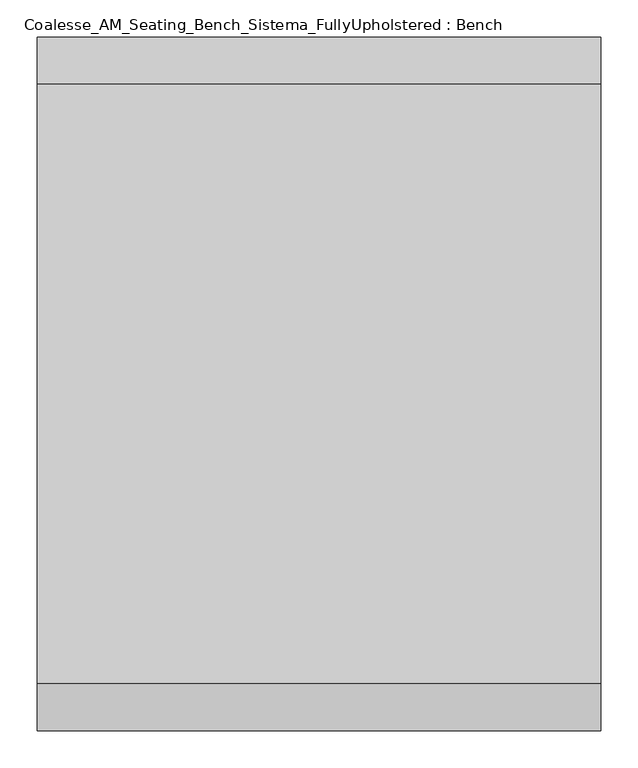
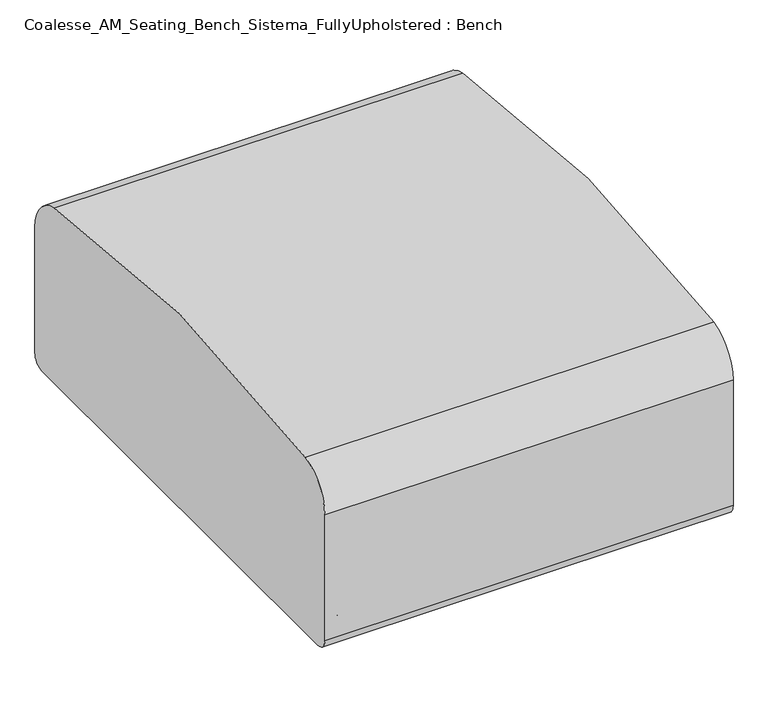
"""IFC4 building model written with IfcOpenShell, lengths in millimetres: furniture geometry, Coalesse_AM_Seating_Bench_Sistema_FullyUpholstered : Bench."""

import ifcopenshell
import ifcopenshell.guid

model = None  # the IFC model being written
_history = None  # IfcOwnerHistory: only IFC2X3 demands one
_inside = {}  # id of a spatial element -> (the spatial element, [elements in it])
_under = {}  # id of a project, library or spatial element -> (it, [spatial elements below it])
_declared = {}  # id of a project -> (the project, [libraries it declares])
_typed = {}  # id of a type object -> (the type object, [elements of that type])
_made_of = {}  # id of a material, layer set ... -> (it, [elements and type objects made of it])


def new_model(schema):
    """Start an empty IFC model of exactly this schema.

    Asked for "IFC4X3", IfcOpenShell would pick the latest addendum, in which some entities
    have other attributes; the version numbers below select the first issue.
    IFC2X3 requires an IfcOwnerHistory on every rooted entity: one is made here for all.
    """
    global model, _history
    if schema == "IFC4X3":
        model = ifcopenshell.file(schema_version=(4, 3, 0, 0))
    else:
        model = ifcopenshell.file(schema=schema)
    _inside.clear()
    _under.clear()
    _declared.clear()
    _typed.clear()
    _made_of.clear()
    _history = None
    if model.schema == "IFC2X3":
        org = make("IfcOrganization", Name="unknown")
        user = make(
            "IfcPersonAndOrganization",
            ThePerson=make("IfcPerson", FamilyName="unknown"),
            TheOrganization=org,
        )
        app = make(
            "IfcApplication",
            ApplicationDeveloper=org,
            Version="unknown",
            ApplicationFullName="unknown",
            ApplicationIdentifier="unknown",
        )
        _history = make(
            "IfcOwnerHistory",
            OwningUser=user,
            OwningApplication=app,
            ChangeAction="ADDED",
            CreationDate=0,
        )
    return model


def make(cls, **values):
    """One entity of the class cls with the attributes given. An attribute that is None is left unset."""
    return model.create_entity(
        cls, **{name: value for name, value in values.items() if value is not None}
    )


def rooted(cls, **values):
    """An entity with a GlobalId (a new one), such as an element, a storey or a relation."""
    return make(cls, GlobalId=ifcopenshell.guid.new(), OwnerHistory=_history, **values)


def si_unit(unit_type, name, prefix=None):
    """IfcSIUnit, for example si_unit("LENGTHUNIT", "METRE", prefix="MILLI")."""
    return make("IfcSIUnit", UnitType=unit_type, Prefix=prefix, Name=name)


def assignment(units):
    """IfcUnitAssignment: the units of a project."""
    return None if units is None else make("IfcUnitAssignment", Units=units)


def point(xyz):
    """IfcCartesianPoint."""
    return None if xyz is None else make("IfcCartesianPoint", Coordinates=xyz)


def direction(xyz):
    """IfcDirection."""
    return None if xyz is None else make("IfcDirection", DirectionRatios=xyz)


def frame(location, z_axis=None, x_axis=None):
    """IfcAxis2Placement3D, a coordinate frame: its origin and axes. An axis left out is left unset."""
    return make(
        "IfcAxis2Placement3D",
        Location=point(location),
        Axis=direction(z_axis),
        RefDirection=direction(x_axis),
    )


def frame_2d(location, x_axis=None):
    """IfcAxis2Placement2D, a coordinate frame in the plane: its origin and x axis."""
    return make(
        "IfcAxis2Placement2D", Location=point(location), RefDirection=direction(x_axis)
    )


def origin():
    """The frame at (0, 0, 0) with its axes left unset."""
    return frame((0.0, 0.0, 0.0))


def place(relative_to, where):
    """IfcLocalPlacement: puts the frame where relative to a parent placement (None: the world)."""
    return make(
        "IfcLocalPlacement", PlacementRelTo=relative_to, RelativePlacement=where
    )


def context(
    kind, dimensions, precision=None, world=None, true_north=None, identifier=None
):
    """IfcGeometricRepresentationContext, for example the 3D "Model" context."""
    return make(
        "IfcGeometricRepresentationContext",
        ContextIdentifier=identifier,
        ContextType=kind,
        CoordinateSpaceDimension=dimensions,
        Precision=precision,
        WorldCoordinateSystem=world,
        TrueNorth=true_north,
    )


def project(units=None, contexts=None):
    """IfcProject with its units and contexts."""
    return rooted(
        "IfcProject",
        Name="project",
        RepresentationContexts=contexts,
        UnitsInContext=assignment(units),
    )


def spatial(cls, under=None, at=None, **own):
    """A site, building, storey or space (cls), placed at a placement, below another one or the project."""
    s = rooted(cls, ObjectPlacement=at, **own)
    if under is not None:
        _under.setdefault(under.id(), (under, []))[1].append(s)
    return s


def polyline(points):
    """IfcPolyline through the points."""
    return make("IfcPolyline", Points=[point(p) for p in points])


def circle_curve(where, radius):
    """IfcCircle in the frame where."""
    return make("IfcCircle", Position=where, Radius=radius)


def ellipse_curve(where, semi_axis1, semi_axis2):
    """IfcEllipse in the frame where."""
    return make(
        "IfcEllipse", Position=where, SemiAxis1=semi_axis1, SemiAxis2=semi_axis2
    )


def trimmed(basis, trim1, trim2, sense, master):
    """IfcTrimmedCurve: the piece of a basis curve between two trims."""
    return make(
        "IfcTrimmedCurve",
        BasisCurve=basis,
        Trim1=trim1,
        Trim2=trim2,
        SenseAgreement=sense,
        MasterRepresentation=master,
    )


def segment(curve, same_sense, transition):
    """IfcCompositeCurveSegment."""
    return make(
        "IfcCompositeCurveSegment",
        Transition=transition,
        SameSense=same_sense,
        ParentCurve=curve,
    )


def composite_curve(segments, self_intersect=None):
    """IfcCompositeCurve: segments joined end to end."""
    return make("IfcCompositeCurve", Segments=segments, SelfIntersect=self_intersect)


def outline(outer, holes=None, kind="AREA"):
    """IfcArbitraryClosedProfileDef: a profile drawn as a closed curve; with holes, ...WithVoids."""
    if holes is None:
        return make("IfcArbitraryClosedProfileDef", ProfileType=kind, OuterCurve=outer)
    return make(
        "IfcArbitraryProfileDefWithVoids",
        ProfileType=kind,
        OuterCurve=outer,
        InnerCurves=holes,
    )


def extrude(swept, where, along, depth):
    """IfcExtrudedAreaSolid: the profile swept, set in the frame where, extruded along a direction by depth."""
    return make(
        "IfcExtrudedAreaSolid",
        SweptArea=swept,
        Position=where,
        ExtrudedDirection=direction(along),
        Depth=depth,
    )


def shape(context_of_items, identifier, shape_type, items):
    """IfcShapeRepresentation: the items that make up one representation, for example the "Body"."""
    return make(
        "IfcShapeRepresentation",
        ContextOfItems=context_of_items,
        RepresentationIdentifier=identifier,
        RepresentationType=shape_type,
        Items=items,
    )


def source(mapping_origin, context_of_items, identifier, shape_type, items):
    """IfcRepresentationMap: a shape defined once, which mapped items show again and again."""
    return make(
        "IfcRepresentationMap",
        MappingOrigin=mapping_origin,
        MappedRepresentation=shape(context_of_items, identifier, shape_type, items),
    )


def transform(
    local_origin,
    x_axis=None,
    y_axis=None,
    z_axis=None,
    scale=None,
    scale2=None,
    scale3=None,
    uniform=True,
):
    """IfcCartesianTransformationOperator3D, or its non-uniform kind. x_axis, y_axis, z_axis: its Axis1, 2, 3."""
    if uniform:
        return make(
            "IfcCartesianTransformationOperator3D",
            Axis1=direction(x_axis),
            Axis2=direction(y_axis),
            LocalOrigin=point(local_origin),
            Scale=scale,
            Axis3=direction(z_axis),
        )
    return make(
        "IfcCartesianTransformationOperator3DnonUniform",
        Axis1=direction(x_axis),
        Axis2=direction(y_axis),
        LocalOrigin=point(local_origin),
        Scale=scale,
        Axis3=direction(z_axis),
        Scale2=scale2,
        Scale3=scale3,
    )


def mapped(mapping_source, mapping_target):
    """IfcMappedItem: shows the shape of a source again, moved by a transform."""
    return make(
        "IfcMappedItem", MappingSource=mapping_source, MappingTarget=mapping_target
    )


def made_of(thing, what):
    """Note that an element or type object is made of a material, layer set ...; save() writes the relation."""
    if what is not None:
        _made_of.setdefault(what.id(), (what, []))[1].append(thing)
    return thing


def element(
    cls,
    number,
    at=None,
    inside=None,
    cuts=None,
    type_object=None,
    material=None,
    context=None,
    identifier="Body",
    shape_type=None,
    held_by="IfcProductDefinitionShape",
    body=None,
    shapes=None,
    **own,
):
    """One element of the class cls, such as IfcWall. Its Tag is "e" and its number.

    at: its placement. inside: the storey or other place that contains it. cuts: it is an
    opening in that element (IfcRelVoidsElement). A single representation is given by context,
    identifier, shape_type and body (its items); several are given by shapes. held_by: the class
    of the entity that holds the representations. save() writes the other relations.
    """
    e = rooted(cls, Tag="e%d" % number, ObjectPlacement=at, **own)
    if body is not None:
        shapes = [shape(context, identifier, shape_type, body)]
    if shapes is not None:
        e.Representation = make(held_by, Representations=shapes)
    if inside is not None:
        _inside.setdefault(inside.id(), (inside, []))[1].append(e)
    if cuts is not None:
        rooted(
            "IfcRelVoidsElement", RelatingBuildingElement=cuts, RelatedOpeningElement=e
        )
    if type_object is not None:
        _typed.setdefault(type_object.id(), (type_object, []))[1].append(e)
    return made_of(e, material)


def aggregate(whole, parts):
    """IfcRelAggregates: a whole, such as a stair, and the parts it consists of."""
    return rooted("IfcRelAggregates", RelatingObject=whole, RelatedObjects=parts)


def save(model, path):
    """Write the relations noted so far, then the file.

    IfcRelAggregates (storeys below a building ...), IfcRelContainedInSpatialStructure (elements
    in a storey), IfcRelDefinesByType, IfcRelAssociatesMaterial and IfcRelDeclares: one each for
    every whole, place, type object, material and project.
    """
    for whole, parts in _under.values():
        aggregate(whole, parts)
    for where, things in _inside.values():
        rooted(
            "IfcRelContainedInSpatialStructure",
            RelatedElements=things,
            RelatingStructure=where,
        )
    for kind, things in _typed.values():
        rooted("IfcRelDefinesByType", RelatedObjects=things, RelatingType=kind)
    for what, things in _made_of.values():
        rooted("IfcRelAssociatesMaterial", RelatedObjects=things, RelatingMaterial=what)
    for by, libraries in _declared.values():
        rooted("IfcRelDeclares", RelatingContext=by, RelatedDefinitions=libraries)
    model.write(path)


def plane_surface(at):
    """IfcPlane: the flat surface through the origin of the frame at, square to its z axis."""
    return make("IfcPlane", Position=at)


def cylinder_surface(at, radius):
    """IfcCylindricalSurface: all points at the distance radius from the z axis of the frame at."""
    return make("IfcCylindricalSurface", Position=at, Radius=radius)


def revolved_surface(curve, axis_point, axis_direction):
    """IfcSurfaceOfRevolution: the curve turned about the line through axis_point along axis_direction."""
    return make(
        "IfcSurfaceOfRevolution",
        SweptCurve=make("IfcArbitraryOpenProfileDef", ProfileType="CURVE", Curve=curve),
        AxisPosition=make("IfcAxis1Placement", Location=point(axis_point), Axis=direction(axis_direction)),
    )


def advanced_brep(points, edges, surfaces, faces):
    """IfcAdvancedBrep: a solid bounded by faces that lie on surfaces and meet in shared edges.

    An edge is (start, end): straight between two places in points (the first is 0);
    or (start, end, curve); or (start, end, curve, False) where it runs against its curve.
    A face is (place in surfaces, loops), or (place, loops, False) where it looks against
    its surface's normal. A loop lists edges by number (the first is 1), with a minus sign
    where the edge is run from its end to its start. The first loop is the outer one.
    """
    corners = [point(p) for p in points]
    vertices = [make("IfcVertexPoint", VertexGeometry=c) for c in corners]
    made = []
    for start, end, *more in edges:
        made.append(
            make(
                "IfcEdgeCurve",
                EdgeStart=vertices[start],
                EdgeEnd=vertices[end],
                EdgeGeometry=more[0] if more else make("IfcPolyline", Points=[corners[start], corners[end]]),
                SameSense=more[1] if len(more) > 1 else True,
            )
        )
    hull = []
    for where, loops, *sense in faces:
        bounds = []
        for j, loop in enumerate(loops):
            ring = [make("IfcOrientedEdge", EdgeElement=made[abs(k) - 1], Orientation=k > 0) for k in loop]
            bounds.append(
                make(
                    "IfcFaceOuterBound" if j == 0 else "IfcFaceBound",
                    Bound=make("IfcEdgeLoop", EdgeList=ring),
                    Orientation=True,
                )
            )
        hull.append(make("IfcAdvancedFace", Bounds=bounds, FaceSurface=surfaces[where], SameSense=sense[0] if sense else True))
    return make("IfcAdvancedBrep", Outer=make("IfcClosedShell", CfsFaces=hull))


def coalesse_am_seating_bench_sistema_fullyupholstered_bench_3f9c6e1c(model_context):
    return source(origin(), model_context, "Body", "SolidModel", [
        advanced_brep(
        [(-269.1276038, -379.5141881, 32.0111214), (-269.1276038, -379.5141881, 16.5557542), (-305.4012134, -379.5141881, 16.5557542), (-305.4012134, -379.5141881, 32.0111214), (-267.8339233, -379.5141881, 14.0167632), (-306.6948939, -379.5141881, 14.0167632), (-263.4619371, -379.5141881, 10.8824382), (-311.0668802, -379.5141881, 10.8824382), (-262.2757207, -379.5141881, 8.4680454), (-312.2530965, -379.5141881, 8.4680454), (-262.2757207, -379.5141881, 3.1081764), (-312.2530965, -379.5141881, 3.1081764), (-265.8720953, -379.5141881, 0.0), (-308.6567219, -379.5141881, 0.0), (-287.2644086, -379.5141881, 0.0), (-287.2644086, -379.5141881, 34.4679682), (-280.1496296, -379.5141881, 34.4679682), (-294.3791876, -379.5141881, 34.4679682), (-280.1496296, -379.5141881, 32.0111214), (-294.3791876, -379.5141881, 32.0111214)],
        [
            (0, 1),
            (1, 2, circle_curve(frame((-287.2644086, -379.5141881, 16.5557542), z_axis=(0.0, 0.0, 1.0), x_axis=(-1.0, 0.0, 0.0)), 18.1368048)),
            (2, 3),
            (3, 0, circle_curve(frame((-287.2644086, -379.5141881, 32.0111214), z_axis=(0.0, 0.0, -1.0), x_axis=(-1.0, 0.0, 0.0)), 18.1368048)),
            (2, 1, circle_curve(frame((-287.2644086, -379.5141881, 16.5557542), z_axis=(0.0, 0.0, 1.0), x_axis=(-1.0, 0.0, 0.0)), 18.1368048)),
            (0, 3, circle_curve(frame((-287.2644086, -379.5141881, 32.0111214), z_axis=(0.0, 0.0, -1.0), x_axis=(-1.0, 0.0, 0.0)), 18.1368048)),
            (1, 4),
            (4, 5, circle_curve(frame((-287.2644086, -379.5141881, 14.0167632), z_axis=(0.0, 0.0, 1.0), x_axis=(-1.0, 0.0, 0.0)), 19.4304853)),
            (5, 2),
            (5, 4, circle_curve(frame((-287.2644086, -379.5141881, 14.0167632), z_axis=(0.0, 0.0, 1.0), x_axis=(-1.0, 0.0, 0.0)), 19.4304853)),
            (4, 6, circle_curve(frame((-309.8158936, -379.5141881, -49.1591113), z_axis=(0.0, 1.0, 0.0), x_axis=(-1.0, 0.0, 0.0)), 75.8529957)),
            (6, 7, circle_curve(frame((-287.2644086, -379.5141881, 10.8824382), z_axis=(0.0, 0.0, 1.0), x_axis=(-1.0, 0.0, 0.0)), 23.8024715)),
            (7, 5, circle_curve(frame((-264.7129236, -379.5141881, -49.1591113), z_axis=(0.0, 1.0, 0.0), x_axis=(1.0, 0.0, 0.0)), 75.8529957)),
            (7, 6, circle_curve(frame((-287.2644086, -379.5141881, 10.8824382), z_axis=(0.0, 0.0, 1.0), x_axis=(-1.0, 0.0, 0.0)), 23.8024715)),
            (6, 8, circle_curve(frame((-265.3259239, -379.5141881, 8.4680454), z_axis=(0.0, 1.0, 0.0), x_axis=(-1.0, 0.0, 0.0)), 3.0502032)),
            (8, 9, circle_curve(frame((-287.2644086, -379.5141881, 8.4680454), z_axis=(0.0, 0.0, 1.0), x_axis=(-1.0, 0.0, 0.0)), 24.9886879)),
            (9, 7, circle_curve(frame((-309.2028933, -379.5141881, 8.4680454), z_axis=(0.0, 1.0, 0.0), x_axis=(1.0, 0.0, 0.0)), 3.0502032)),
            (9, 8, circle_curve(frame((-287.2644086, -379.5141881, 8.4680454), z_axis=(0.0, 0.0, 1.0), x_axis=(-1.0, 0.0, 0.0)), 24.9886879)),
            (8, 10),
            (10, 11, circle_curve(frame((-287.2644086, -379.5141881, 3.1081764), z_axis=(0.0, 0.0, 1.0), x_axis=(-1.0, 0.0, 0.0)), 24.9886879)),
            (11, 9),
            (11, 10, circle_curve(frame((-287.2644086, -379.5141881, 3.1081764), z_axis=(0.0, 0.0, 1.0), x_axis=(-1.0, 0.0, 0.0)), 24.9886879)),
            (10, 12, circle_curve(frame((-265.8720953, -379.5141881, 3.634715), z_axis=(0.0, 1.0, 0.0), x_axis=(-1.0, 0.0, 0.0)), 3.634715)),
            (12, 13, circle_curve(frame((-287.2644086, -379.5141881, 0.0), z_axis=(0.0, 0.0, 1.0), x_axis=(-1.0, 0.0, 0.0)), 21.3923133)),
            (13, 11, circle_curve(frame((-308.6567219, -379.5141881, 3.634715), z_axis=(0.0, 1.0, 0.0), x_axis=(1.0, 0.0, 0.0)), 3.634715)),
            (13, 12, circle_curve(frame((-287.2644086, -379.5141881, 0.0), z_axis=(0.0, 0.0, 1.0), x_axis=(-1.0, 0.0, 0.0)), 21.3923133)),
            (12, 14),
            (14, 13),
            (15, 16),
            (16, 17, circle_curve(frame((-287.2644086, -379.5141881, 34.4679682), z_axis=(0.0, 0.0, 1.0), x_axis=(-1.0, 0.0, 0.0)), 7.114779)),
            (17, 15),
            (17, 16, circle_curve(frame((-287.2644086, -379.5141881, 34.4679682), z_axis=(0.0, 0.0, 1.0), x_axis=(-1.0, 0.0, 0.0)), 7.114779)),
            (16, 18),
            (18, 19, circle_curve(frame((-287.2644086, -379.5141881, 32.0111214), z_axis=(0.0, 0.0, 1.0), x_axis=(-1.0, 0.0, 0.0)), 7.114779)),
            (19, 17),
            (19, 18, circle_curve(frame((-287.2644086, -379.5141881, 32.0111214), z_axis=(0.0, 0.0, 1.0), x_axis=(-1.0, 0.0, 0.0)), 7.114779)),
            (18, 0),
            (3, 19),
        ],
        [
            cylinder_surface(frame((-287.2644086, -379.5141881, 22.0491407), z_axis=(0.0, 0.0, 1.0), x_axis=(-1.0, 0.0, 0.0)), 18.1368048),
            revolved_surface(polyline([(-306.6948939, -379.5141881, 14.0167632), (-305.4012134, -379.5141881, 16.5557542)]), (-287.2644086, -379.5141881, 22.0491407), (0.0, 0.0, 1.0)),
            revolved_surface(trimmed(ellipse_curve(frame((-264.7129236, -379.5141881, -49.1591113), z_axis=(0.0, 1.0, 0.0), x_axis=(1.0, 0.0, 0.0)), 75.8529957, 75.8529957), [point((-311.0668802, -379.5141881, 10.8824382))], [point((-306.6948939, -379.5141881, 14.0167632))], True, "CARTESIAN"), (-287.2644086, -379.5141881, 22.0491407), (0.0, 0.0, 1.0)),
            revolved_surface(trimmed(ellipse_curve(frame((-309.2028933, -379.5141881, 8.4680454), z_axis=(0.0, 1.0, 0.0), x_axis=(1.0, 0.0, 0.0)), 3.0502032, 3.0502032), [point((-312.2530965, -379.5141881, 8.4680454))], [point((-311.0668802, -379.5141881, 10.8824382))], True, "CARTESIAN"), (-287.2644086, -379.5141881, 22.0491407), (0.0, 0.0, 1.0)),
            cylinder_surface(frame((-287.2644086, -379.5141881, 22.0491407), z_axis=(0.0, 0.0, 1.0), x_axis=(-1.0, 0.0, 0.0)), 24.9886879),
            revolved_surface(trimmed(ellipse_curve(frame((-308.6567219, -379.5141881, 3.634715), z_axis=(0.0, 1.0, 0.0), x_axis=(1.0, 0.0, 0.0)), 3.634715, 3.634715), [point((-308.6567219, -379.5141881, 0.0))], [point((-312.2530965, -379.5141881, 3.1081764))], True, "CARTESIAN"), (-287.2644086, -379.5141881, 22.0491407), (0.0, 0.0, 1.0)),
            plane_surface(frame((-287.2644086, -379.5141881, 0.0), z_axis=(0.0, 0.0, -1.0), x_axis=(-1.0, 0.0, 0.0))),
            plane_surface(frame((-287.2644086, -379.5141881, 34.4679682), z_axis=(0.0, 0.0, 1.0), x_axis=(-1.0, 0.0, 0.0))),
            cylinder_surface(frame((-287.2644086, -379.5141881, 22.0491407), z_axis=(0.0, 0.0, 1.0), x_axis=(-1.0, 0.0, 0.0)), 7.114779),
            plane_surface(frame((-287.2644086, -379.5141881, 32.0111214), z_axis=(0.0, 0.0, 1.0), x_axis=(-1.0, 0.0, 0.0))),
        ],
        [
            (0, [[1, 2, 3, 4]]),
            (0, [[-3, 5, -1, 6]]),
            (1, [[7, 8, 9, -2]]),
            (1, [[-9, 10, -7, -5]]),
            (2, [[11, 12, 13, -8]]),
            (2, [[-13, 14, -11, -10]]),
            (3, [[15, 16, 17, -12]]),
            (3, [[-17, 18, -15, -14]]),
            (4, [[19, 20, 21, -16]]),
            (4, [[-21, 22, -19, -18]]),
            (5, [[23, 24, 25, -20]]),
            (5, [[-25, 26, -23, -22]]),
            (6, [[27, 28, -24]]),
            (6, [[-28, -27, -26]]),
            (7, [[29, 30, 31]]),
            (7, [[-31, 32, -29]]),
            (8, [[33, 34, 35, -30]]),
            (8, [[-35, 36, -33, -32]]),
            (9, [[37, -4, 38, -34]]),
            (9, [[-38, -6, -37, -36]]),
        ],
    ),
        advanced_brep(
        [(269.1276038, -379.5141881, 16.5557542), (269.1276038, -379.5141881, 32.0111214), (305.4012134, -379.5141881, 32.0111214), (305.4012134, -379.5141881, 16.5557542), (267.8339233, -379.5141881, 14.0167632), (306.6948939, -379.5141881, 14.0167632), (263.4619371, -379.5141881, 10.8824382), (311.0668802, -379.5141881, 10.8824382), (262.2757207, -379.5141881, 8.4680454), (312.2530965, -379.5141881, 8.4680454), (262.2757207, -379.5141881, 3.1081764), (312.2530965, -379.5141881, 3.1081764), (265.8720953, -379.5141881, 0.0), (308.6567219, -379.5141881, 0.0), (287.2644086, -379.5141881, 0.0), (280.1496296, -379.5141881, 34.4679682), (287.2644086, -379.5141881, 34.4679682), (294.3791876, -379.5141881, 34.4679682), (280.1496296, -379.5141881, 32.0111214), (294.3791876, -379.5141881, 32.0111214)],
        [
            (0, 1),
            (1, 2, circle_curve(frame((287.2644086, -379.5141881, 32.0111214), z_axis=(0.0, 0.0, -1.0), x_axis=(1.0, 0.0, 0.0)), 18.1368048)),
            (2, 3),
            (3, 0, circle_curve(frame((287.2644086, -379.5141881, 16.5557542), z_axis=(0.0, 0.0, 1.0), x_axis=(1.0, 0.0, 0.0)), 18.1368048)),
            (2, 1, circle_curve(frame((287.2644086, -379.5141881, 32.0111214), z_axis=(0.0, 0.0, -1.0), x_axis=(1.0, 0.0, 0.0)), 18.1368048)),
            (0, 3, circle_curve(frame((287.2644086, -379.5141881, 16.5557542), z_axis=(0.0, 0.0, 1.0), x_axis=(1.0, 0.0, 0.0)), 18.1368048)),
            (4, 0),
            (3, 5),
            (5, 4, circle_curve(frame((287.2644086, -379.5141881, 14.0167632), z_axis=(0.0, 0.0, 1.0), x_axis=(1.0, 0.0, 0.0)), 19.4304853)),
            (4, 5, circle_curve(frame((287.2644086, -379.5141881, 14.0167632), z_axis=(0.0, 0.0, 1.0), x_axis=(1.0, 0.0, 0.0)), 19.4304853)),
            (6, 4, circle_curve(frame((309.8158936, -379.5141881, -49.1591113), z_axis=(0.0, 1.0, 0.0), x_axis=(1.0, 0.0, 0.0)), 75.8529957)),
            (5, 7, circle_curve(frame((264.7129236, -379.5141881, -49.1591113), z_axis=(0.0, 1.0, 0.0), x_axis=(-1.0, 0.0, 0.0)), 75.8529957)),
            (7, 6, circle_curve(frame((287.2644086, -379.5141881, 10.8824382), z_axis=(0.0, 0.0, 1.0), x_axis=(1.0, 0.0, 0.0)), 23.8024715)),
            (6, 7, circle_curve(frame((287.2644086, -379.5141881, 10.8824382), z_axis=(0.0, 0.0, 1.0), x_axis=(1.0, 0.0, 0.0)), 23.8024715)),
            (8, 6, circle_curve(frame((265.3259239, -379.5141881, 8.4680454), z_axis=(0.0, 1.0, 0.0), x_axis=(1.0, 0.0, 0.0)), 3.0502032)),
            (7, 9, circle_curve(frame((309.2028933, -379.5141881, 8.4680454), z_axis=(0.0, 1.0, 0.0), x_axis=(-1.0, 0.0, 0.0)), 3.0502032)),
            (9, 8, circle_curve(frame((287.2644086, -379.5141881, 8.4680454), z_axis=(0.0, 0.0, 1.0), x_axis=(1.0, 0.0, 0.0)), 24.9886879)),
            (8, 9, circle_curve(frame((287.2644086, -379.5141881, 8.4680454), z_axis=(0.0, 0.0, 1.0), x_axis=(1.0, 0.0, 0.0)), 24.9886879)),
            (10, 8),
            (9, 11),
            (11, 10, circle_curve(frame((287.2644086, -379.5141881, 3.1081764), z_axis=(0.0, 0.0, 1.0), x_axis=(1.0, 0.0, 0.0)), 24.9886879)),
            (10, 11, circle_curve(frame((287.2644086, -379.5141881, 3.1081764), z_axis=(0.0, 0.0, 1.0), x_axis=(1.0, 0.0, 0.0)), 24.9886879)),
            (12, 10, circle_curve(frame((265.8720953, -379.5141881, 3.634715), z_axis=(0.0, 1.0, 0.0), x_axis=(1.0, 0.0, 0.0)), 3.634715)),
            (11, 13, circle_curve(frame((308.6567219, -379.5141881, 3.634715), z_axis=(0.0, 1.0, 0.0), x_axis=(-1.0, 0.0, 0.0)), 3.634715)),
            (13, 12, circle_curve(frame((287.2644086, -379.5141881, 0.0), z_axis=(0.0, 0.0, 1.0), x_axis=(1.0, 0.0, 0.0)), 21.3923133)),
            (12, 13, circle_curve(frame((287.2644086, -379.5141881, 0.0), z_axis=(0.0, 0.0, 1.0), x_axis=(1.0, 0.0, 0.0)), 21.3923133)),
            (14, 12),
            (13, 14),
            (15, 16),
            (16, 17),
            (17, 15, circle_curve(frame((287.2644086, -379.5141881, 34.4679682), z_axis=(0.0, 0.0, 1.0), x_axis=(1.0, 0.0, 0.0)), 7.114779)),
            (15, 17, circle_curve(frame((287.2644086, -379.5141881, 34.4679682), z_axis=(0.0, 0.0, 1.0), x_axis=(1.0, 0.0, 0.0)), 7.114779)),
            (18, 15),
            (17, 19),
            (19, 18, circle_curve(frame((287.2644086, -379.5141881, 32.0111214), z_axis=(0.0, 0.0, 1.0), x_axis=(1.0, 0.0, 0.0)), 7.114779)),
            (18, 19, circle_curve(frame((287.2644086, -379.5141881, 32.0111214), z_axis=(0.0, 0.0, 1.0), x_axis=(1.0, 0.0, 0.0)), 7.114779)),
            (1, 18),
            (19, 2),
        ],
        [
            cylinder_surface(frame((287.2644086, -379.5141881, 22.0491407), z_axis=(0.0, 0.0, -1.0), x_axis=(1.0, 0.0, 0.0)), 18.1368048),
            revolved_surface(polyline([(305.4012134, -379.5141881, 16.5557542), (306.6948939, -379.5141881, 14.0167632)]), (287.2644086, -379.5141881, 22.0491407), (0.0, 0.0, -1.0)),
            revolved_surface(trimmed(ellipse_curve(frame((264.7129236, -379.5141881, -49.1591113), z_axis=(0.0, 1.0, 0.0), x_axis=(-1.0, 0.0, 0.0)), 75.8529957, 75.8529957), [point((306.6948939, -379.5141881, 14.0167632))], [point((311.0668802, -379.5141881, 10.8824382))], True, "CARTESIAN"), (287.2644086, -379.5141881, 22.0491407), (0.0, 0.0, -1.0)),
            revolved_surface(trimmed(ellipse_curve(frame((309.2028933, -379.5141881, 8.4680454), z_axis=(0.0, 1.0, 0.0), x_axis=(-1.0, 0.0, 0.0)), 3.0502032, 3.0502032), [point((311.0668802, -379.5141881, 10.8824382))], [point((312.2530965, -379.5141881, 8.4680454))], True, "CARTESIAN"), (287.2644086, -379.5141881, 22.0491407), (0.0, 0.0, -1.0)),
            cylinder_surface(frame((287.2644086, -379.5141881, 22.0491407), z_axis=(0.0, 0.0, -1.0), x_axis=(1.0, 0.0, 0.0)), 24.9886879),
            revolved_surface(trimmed(ellipse_curve(frame((308.6567219, -379.5141881, 3.634715), z_axis=(0.0, 1.0, 0.0), x_axis=(-1.0, 0.0, 0.0)), 3.634715, 3.634715), [point((312.2530965, -379.5141881, 3.1081764))], [point((308.6567219, -379.5141881, 0.0))], True, "CARTESIAN"), (287.2644086, -379.5141881, 22.0491407), (0.0, 0.0, -1.0)),
            plane_surface(frame((287.2644086, -379.5141881, 0.0), z_axis=(0.0, 0.0, -1.0), x_axis=(1.0, 0.0, 0.0))),
            plane_surface(frame((287.2644086, -379.5141881, 34.4679682), z_axis=(0.0, 0.0, 1.0), x_axis=(1.0, 0.0, 0.0))),
            cylinder_surface(frame((287.2644086, -379.5141881, 22.0491407), z_axis=(0.0, 0.0, -1.0), x_axis=(1.0, 0.0, 0.0)), 7.114779),
            plane_surface(frame((287.2644086, -379.5141881, 32.0111214), z_axis=(0.0, 0.0, 1.0), x_axis=(1.0, 0.0, 0.0))),
        ],
        [
            (0, [[1, 2, 3, 4]]),
            (0, [[-3, 5, -1, 6]]),
            (1, [[7, -4, 8, 9]]),
            (1, [[-8, -6, -7, 10]]),
            (2, [[11, -9, 12, 13]]),
            (2, [[-12, -10, -11, 14]]),
            (3, [[15, -13, 16, 17]]),
            (3, [[-16, -14, -15, 18]]),
            (4, [[19, -17, 20, 21]]),
            (4, [[-20, -18, -19, 22]]),
            (5, [[23, -21, 24, 25]]),
            (5, [[-24, -22, -23, 26]]),
            (6, [[27, -25, 28]]),
            (6, [[-28, -26, -27]]),
            (7, [[29, 30, 31]]),
            (7, [[-30, -29, 32]]),
            (8, [[33, -31, 34, 35]]),
            (8, [[-34, -32, -33, 36]]),
            (9, [[37, -35, 38, -2]]),
            (9, [[-38, -36, -37, -5]]),
        ],
    ),
        advanced_brep(
        [(269.1276038, 379.5141881, 32.0111214), (269.1276038, 379.5141881, 16.5557542), (305.4012134, 379.5141881, 16.5557542), (305.4012134, 379.5141881, 32.0111214), (267.8339233, 379.5141881, 14.0167632), (306.6948939, 379.5141881, 14.0167632), (263.4619371, 379.5141881, 10.8824382), (311.0668802, 379.5141881, 10.8824382), (262.2757207, 379.5141881, 8.4680454), (312.2530965, 379.5141881, 8.4680454), (262.2757207, 379.5141881, 3.1081764), (312.2530965, 379.5141881, 3.1081764), (265.8720953, 379.5141881, 0.0), (308.6567219, 379.5141881, 0.0), (287.2644086, 379.5141881, 0.0), (287.2644086, 379.5141881, 34.4679682), (280.1496296, 379.5141881, 34.4679682), (294.3791876, 379.5141881, 34.4679682), (280.1496296, 379.5141881, 32.0111214), (294.3791876, 379.5141881, 32.0111214)],
        [
            (0, 1),
            (1, 2, circle_curve(frame((287.2644086, 379.5141881, 16.5557542), z_axis=(0.0, 0.0, 1.0), x_axis=(1.0, 0.0, 0.0)), 18.1368048)),
            (2, 3),
            (3, 0, circle_curve(frame((287.2644086, 379.5141881, 32.0111214), z_axis=(0.0, 0.0, -1.0), x_axis=(1.0, 0.0, 0.0)), 18.1368048)),
            (2, 1, circle_curve(frame((287.2644086, 379.5141881, 16.5557542), z_axis=(0.0, 0.0, 1.0), x_axis=(1.0, 0.0, 0.0)), 18.1368048)),
            (0, 3, circle_curve(frame((287.2644086, 379.5141881, 32.0111214), z_axis=(0.0, 0.0, -1.0), x_axis=(1.0, 0.0, 0.0)), 18.1368048)),
            (1, 4),
            (4, 5, circle_curve(frame((287.2644086, 379.5141881, 14.0167632), z_axis=(0.0, 0.0, 1.0), x_axis=(1.0, 0.0, 0.0)), 19.4304853)),
            (5, 2),
            (5, 4, circle_curve(frame((287.2644086, 379.5141881, 14.0167632), z_axis=(0.0, 0.0, 1.0), x_axis=(1.0, 0.0, 0.0)), 19.4304853)),
            (4, 6, circle_curve(frame((309.8158936, 379.5141881, -49.1591113), z_axis=(0.0, -1.0, 0.0), x_axis=(1.0, 0.0, 0.0)), 75.8529957)),
            (6, 7, circle_curve(frame((287.2644086, 379.5141881, 10.8824382), z_axis=(0.0, 0.0, 1.0), x_axis=(1.0, 0.0, 0.0)), 23.8024715)),
            (7, 5, circle_curve(frame((264.7129236, 379.5141881, -49.1591113), z_axis=(0.0, -1.0, 0.0), x_axis=(-1.0, 0.0, 0.0)), 75.8529957)),
            (7, 6, circle_curve(frame((287.2644086, 379.5141881, 10.8824382), z_axis=(0.0, 0.0, 1.0), x_axis=(1.0, 0.0, 0.0)), 23.8024715)),
            (6, 8, circle_curve(frame((265.3259239, 379.5141881, 8.4680454), z_axis=(0.0, -1.0, 0.0), x_axis=(1.0, 0.0, 0.0)), 3.0502032)),
            (8, 9, circle_curve(frame((287.2644086, 379.5141881, 8.4680454), z_axis=(0.0, 0.0, 1.0), x_axis=(1.0, 0.0, 0.0)), 24.9886879)),
            (9, 7, circle_curve(frame((309.2028933, 379.5141881, 8.4680454), z_axis=(0.0, -1.0, 0.0), x_axis=(-1.0, 0.0, 0.0)), 3.0502032)),
            (9, 8, circle_curve(frame((287.2644086, 379.5141881, 8.4680454), z_axis=(0.0, 0.0, 1.0), x_axis=(1.0, 0.0, 0.0)), 24.9886879)),
            (8, 10),
            (10, 11, circle_curve(frame((287.2644086, 379.5141881, 3.1081764), z_axis=(0.0, 0.0, 1.0), x_axis=(1.0, 0.0, 0.0)), 24.9886879)),
            (11, 9),
            (11, 10, circle_curve(frame((287.2644086, 379.5141881, 3.1081764), z_axis=(0.0, 0.0, 1.0), x_axis=(1.0, 0.0, 0.0)), 24.9886879)),
            (10, 12, circle_curve(frame((265.8720953, 379.5141881, 3.634715), z_axis=(0.0, -1.0, 0.0), x_axis=(1.0, 0.0, 0.0)), 3.634715)),
            (12, 13, circle_curve(frame((287.2644086, 379.5141881, 0.0), z_axis=(0.0, 0.0, 1.0), x_axis=(1.0, 0.0, 0.0)), 21.3923133)),
            (13, 11, circle_curve(frame((308.6567219, 379.5141881, 3.634715), z_axis=(0.0, -1.0, 0.0), x_axis=(-1.0, 0.0, 0.0)), 3.634715)),
            (13, 12, circle_curve(frame((287.2644086, 379.5141881, 0.0), z_axis=(0.0, 0.0, 1.0), x_axis=(1.0, 0.0, 0.0)), 21.3923133)),
            (12, 14),
            (14, 13),
            (15, 16),
            (16, 17, circle_curve(frame((287.2644086, 379.5141881, 34.4679682), z_axis=(0.0, 0.0, 1.0), x_axis=(1.0, 0.0, 0.0)), 7.114779)),
            (17, 15),
            (17, 16, circle_curve(frame((287.2644086, 379.5141881, 34.4679682), z_axis=(0.0, 0.0, 1.0), x_axis=(1.0, 0.0, 0.0)), 7.114779)),
            (16, 18),
            (18, 19, circle_curve(frame((287.2644086, 379.5141881, 32.0111214), z_axis=(0.0, 0.0, 1.0), x_axis=(1.0, 0.0, 0.0)), 7.114779)),
            (19, 17),
            (19, 18, circle_curve(frame((287.2644086, 379.5141881, 32.0111214), z_axis=(0.0, 0.0, 1.0), x_axis=(1.0, 0.0, 0.0)), 7.114779)),
            (18, 0),
            (3, 19),
        ],
        [
            cylinder_surface(frame((287.2644086, 379.5141881, 22.0491407), z_axis=(0.0, 0.0, 1.0), x_axis=(1.0, 0.0, 0.0)), 18.1368048),
            revolved_surface(polyline([(306.6948939, 379.5141881, 14.0167632), (305.4012134, 379.5141881, 16.5557542)]), (287.2644086, 379.5141881, 22.0491407), (0.0, 0.0, 1.0)),
            revolved_surface(trimmed(ellipse_curve(frame((264.7129236, 379.5141881, -49.1591113), z_axis=(0.0, -1.0, 0.0), x_axis=(-1.0, 0.0, 0.0)), 75.8529957, 75.8529957), [point((311.0668802, 379.5141881, 10.8824382))], [point((306.6948939, 379.5141881, 14.0167632))], True, "CARTESIAN"), (287.2644086, 379.5141881, 22.0491407), (0.0, 0.0, 1.0)),
            revolved_surface(trimmed(ellipse_curve(frame((309.2028933, 379.5141881, 8.4680454), z_axis=(0.0, -1.0, 0.0), x_axis=(-1.0, 0.0, 0.0)), 3.0502032, 3.0502032), [point((312.2530965, 379.5141881, 8.4680454))], [point((311.0668802, 379.5141881, 10.8824382))], True, "CARTESIAN"), (287.2644086, 379.5141881, 22.0491407), (0.0, 0.0, 1.0)),
            cylinder_surface(frame((287.2644086, 379.5141881, 22.0491407), z_axis=(0.0, 0.0, 1.0), x_axis=(1.0, 0.0, 0.0)), 24.9886879),
            revolved_surface(trimmed(ellipse_curve(frame((308.6567219, 379.5141881, 3.634715), z_axis=(0.0, -1.0, 0.0), x_axis=(-1.0, 0.0, 0.0)), 3.634715, 3.634715), [point((308.6567219, 379.5141881, 0.0))], [point((312.2530965, 379.5141881, 3.1081764))], True, "CARTESIAN"), (287.2644086, 379.5141881, 22.0491407), (0.0, 0.0, 1.0)),
            plane_surface(frame((287.2644086, 379.5141881, 0.0), z_axis=(0.0, 0.0, -1.0), x_axis=(1.0, 0.0, 0.0))),
            plane_surface(frame((287.2644086, 379.5141881, 34.4679682), z_axis=(0.0, 0.0, 1.0), x_axis=(1.0, 0.0, 0.0))),
            cylinder_surface(frame((287.2644086, 379.5141881, 22.0491407), z_axis=(0.0, 0.0, 1.0), x_axis=(1.0, 0.0, 0.0)), 7.114779),
            plane_surface(frame((287.2644086, 379.5141881, 32.0111214), z_axis=(0.0, 0.0, 1.0), x_axis=(1.0, 0.0, 0.0))),
        ],
        [
            (0, [[1, 2, 3, 4]]),
            (0, [[-3, 5, -1, 6]]),
            (1, [[7, 8, 9, -2]]),
            (1, [[-9, 10, -7, -5]]),
            (2, [[11, 12, 13, -8]]),
            (2, [[-13, 14, -11, -10]]),
            (3, [[15, 16, 17, -12]]),
            (3, [[-17, 18, -15, -14]]),
            (4, [[19, 20, 21, -16]]),
            (4, [[-21, 22, -19, -18]]),
            (5, [[23, 24, 25, -20]]),
            (5, [[-25, 26, -23, -22]]),
            (6, [[27, 28, -24]]),
            (6, [[-28, -27, -26]]),
            (7, [[29, 30, 31]]),
            (7, [[-31, 32, -29]]),
            (8, [[33, 34, 35, -30]]),
            (8, [[-35, 36, -33, -32]]),
            (9, [[37, -4, 38, -34]]),
            (9, [[-38, -6, -37, -36]]),
        ],
    ),
        advanced_brep(
        [(-269.1276038, 379.5141881, 16.5557542), (-269.1276038, 379.5141881, 32.0111214), (-305.4012134, 379.5141881, 32.0111214), (-305.4012134, 379.5141881, 16.5557542), (-267.8339233, 379.5141881, 14.0167632), (-306.6948939, 379.5141881, 14.0167632), (-263.4619371, 379.5141881, 10.8824382), (-311.0668802, 379.5141881, 10.8824382), (-262.2757207, 379.5141881, 8.4680454), (-312.2530965, 379.5141881, 8.4680454), (-262.2757207, 379.5141881, 3.1081764), (-312.2530965, 379.5141881, 3.1081764), (-265.8720953, 379.5141881, 0.0), (-308.6567219, 379.5141881, 0.0), (-287.2644086, 379.5141881, 0.0), (-280.1496296, 379.5141881, 34.4679682), (-287.2644086, 379.5141881, 34.4679682), (-294.3791876, 379.5141881, 34.4679682), (-280.1496296, 379.5141881, 32.0111214), (-294.3791876, 379.5141881, 32.0111214)],
        [
            (0, 1),
            (1, 2, circle_curve(frame((-287.2644086, 379.5141881, 32.0111214), z_axis=(0.0, 0.0, -1.0), x_axis=(-1.0, 0.0, 0.0)), 18.1368048)),
            (2, 3),
            (3, 0, circle_curve(frame((-287.2644086, 379.5141881, 16.5557542), z_axis=(0.0, 0.0, 1.0), x_axis=(-1.0, 0.0, 0.0)), 18.1368048)),
            (2, 1, circle_curve(frame((-287.2644086, 379.5141881, 32.0111214), z_axis=(0.0, 0.0, -1.0), x_axis=(-1.0, 0.0, 0.0)), 18.1368048)),
            (0, 3, circle_curve(frame((-287.2644086, 379.5141881, 16.5557542), z_axis=(0.0, 0.0, 1.0), x_axis=(-1.0, 0.0, 0.0)), 18.1368048)),
            (4, 0),
            (3, 5),
            (5, 4, circle_curve(frame((-287.2644086, 379.5141881, 14.0167632), z_axis=(0.0, 0.0, 1.0), x_axis=(-1.0, 0.0, 0.0)), 19.4304853)),
            (4, 5, circle_curve(frame((-287.2644086, 379.5141881, 14.0167632), z_axis=(0.0, 0.0, 1.0), x_axis=(-1.0, 0.0, 0.0)), 19.4304853)),
            (6, 4, circle_curve(frame((-309.8158936, 379.5141881, -49.1591113), z_axis=(0.0, -1.0, 0.0), x_axis=(-1.0, 0.0, 0.0)), 75.8529957)),
            (5, 7, circle_curve(frame((-264.7129236, 379.5141881, -49.1591113), z_axis=(0.0, -1.0, 0.0), x_axis=(1.0, 0.0, 0.0)), 75.8529957)),
            (7, 6, circle_curve(frame((-287.2644086, 379.5141881, 10.8824382), z_axis=(0.0, 0.0, 1.0), x_axis=(-1.0, 0.0, 0.0)), 23.8024715)),
            (6, 7, circle_curve(frame((-287.2644086, 379.5141881, 10.8824382), z_axis=(0.0, 0.0, 1.0), x_axis=(-1.0, 0.0, 0.0)), 23.8024715)),
            (8, 6, circle_curve(frame((-265.3259239, 379.5141881, 8.4680454), z_axis=(0.0, -1.0, 0.0), x_axis=(-1.0, 0.0, 0.0)), 3.0502032)),
            (7, 9, circle_curve(frame((-309.2028933, 379.5141881, 8.4680454), z_axis=(0.0, -1.0, 0.0), x_axis=(1.0, 0.0, 0.0)), 3.0502032)),
            (9, 8, circle_curve(frame((-287.2644086, 379.5141881, 8.4680454), z_axis=(0.0, 0.0, 1.0), x_axis=(-1.0, 0.0, 0.0)), 24.9886879)),
            (8, 9, circle_curve(frame((-287.2644086, 379.5141881, 8.4680454), z_axis=(0.0, 0.0, 1.0), x_axis=(-1.0, 0.0, 0.0)), 24.9886879)),
            (10, 8),
            (9, 11),
            (11, 10, circle_curve(frame((-287.2644086, 379.5141881, 3.1081764), z_axis=(0.0, 0.0, 1.0), x_axis=(-1.0, 0.0, 0.0)), 24.9886879)),
            (10, 11, circle_curve(frame((-287.2644086, 379.5141881, 3.1081764), z_axis=(0.0, 0.0, 1.0), x_axis=(-1.0, 0.0, 0.0)), 24.9886879)),
            (12, 10, circle_curve(frame((-265.8720953, 379.5141881, 3.634715), z_axis=(0.0, -1.0, 0.0), x_axis=(-1.0, 0.0, 0.0)), 3.634715)),
            (11, 13, circle_curve(frame((-308.6567219, 379.5141881, 3.634715), z_axis=(0.0, -1.0, 0.0), x_axis=(1.0, 0.0, 0.0)), 3.634715)),
            (13, 12, circle_curve(frame((-287.2644086, 379.5141881, 0.0), z_axis=(0.0, 0.0, 1.0), x_axis=(-1.0, 0.0, 0.0)), 21.3923133)),
            (12, 13, circle_curve(frame((-287.2644086, 379.5141881, 0.0), z_axis=(0.0, 0.0, 1.0), x_axis=(-1.0, 0.0, 0.0)), 21.3923133)),
            (14, 12),
            (13, 14),
            (15, 16),
            (16, 17),
            (17, 15, circle_curve(frame((-287.2644086, 379.5141881, 34.4679682), z_axis=(0.0, 0.0, 1.0), x_axis=(-1.0, 0.0, 0.0)), 7.114779)),
            (15, 17, circle_curve(frame((-287.2644086, 379.5141881, 34.4679682), z_axis=(0.0, 0.0, 1.0), x_axis=(-1.0, 0.0, 0.0)), 7.114779)),
            (18, 15),
            (17, 19),
            (19, 18, circle_curve(frame((-287.2644086, 379.5141881, 32.0111214), z_axis=(0.0, 0.0, 1.0), x_axis=(-1.0, 0.0, 0.0)), 7.114779)),
            (18, 19, circle_curve(frame((-287.2644086, 379.5141881, 32.0111214), z_axis=(0.0, 0.0, 1.0), x_axis=(-1.0, 0.0, 0.0)), 7.114779)),
            (1, 18),
            (19, 2),
        ],
        [
            cylinder_surface(frame((-287.2644086, 379.5141881, 22.0491407), z_axis=(0.0, 0.0, -1.0), x_axis=(-1.0, 0.0, 0.0)), 18.1368048),
            revolved_surface(polyline([(-305.4012134, 379.5141881, 16.5557542), (-306.6948939, 379.5141881, 14.0167632)]), (-287.2644086, 379.5141881, 22.0491407), (0.0, 0.0, -1.0)),
            revolved_surface(trimmed(ellipse_curve(frame((-264.7129236, 379.5141881, -49.1591113), z_axis=(0.0, -1.0, 0.0), x_axis=(1.0, 0.0, 0.0)), 75.8529957, 75.8529957), [point((-306.6948939, 379.5141881, 14.0167632))], [point((-311.0668802, 379.5141881, 10.8824382))], True, "CARTESIAN"), (-287.2644086, 379.5141881, 22.0491407), (0.0, 0.0, -1.0)),
            revolved_surface(trimmed(ellipse_curve(frame((-309.2028933, 379.5141881, 8.4680454), z_axis=(0.0, -1.0, 0.0), x_axis=(1.0, 0.0, 0.0)), 3.0502032, 3.0502032), [point((-311.0668802, 379.5141881, 10.8824382))], [point((-312.2530965, 379.5141881, 8.4680454))], True, "CARTESIAN"), (-287.2644086, 379.5141881, 22.0491407), (0.0, 0.0, -1.0)),
            cylinder_surface(frame((-287.2644086, 379.5141881, 22.0491407), z_axis=(0.0, 0.0, -1.0), x_axis=(-1.0, 0.0, 0.0)), 24.9886879),
            revolved_surface(trimmed(ellipse_curve(frame((-308.6567219, 379.5141881, 3.634715), z_axis=(0.0, -1.0, 0.0), x_axis=(1.0, 0.0, 0.0)), 3.634715, 3.634715), [point((-312.2530965, 379.5141881, 3.1081764))], [point((-308.6567219, 379.5141881, 0.0))], True, "CARTESIAN"), (-287.2644086, 379.5141881, 22.0491407), (0.0, 0.0, -1.0)),
            plane_surface(frame((-287.2644086, 379.5141881, 0.0), z_axis=(0.0, 0.0, -1.0), x_axis=(-1.0, 0.0, 0.0))),
            plane_surface(frame((-287.2644086, 379.5141881, 34.4679682), z_axis=(0.0, 0.0, 1.0), x_axis=(-1.0, 0.0, 0.0))),
            cylinder_surface(frame((-287.2644086, 379.5141881, 22.0491407), z_axis=(0.0, 0.0, -1.0), x_axis=(-1.0, 0.0, 0.0)), 7.114779),
            plane_surface(frame((-287.2644086, 379.5141881, 32.0111214), z_axis=(0.0, 0.0, 1.0), x_axis=(-1.0, 0.0, 0.0))),
        ],
        [
            (0, [[1, 2, 3, 4]]),
            (0, [[-3, 5, -1, 6]]),
            (1, [[7, -4, 8, 9]]),
            (1, [[-8, -6, -7, 10]]),
            (2, [[11, -9, 12, 13]]),
            (2, [[-12, -10, -11, 14]]),
            (3, [[15, -13, 16, 17]]),
            (3, [[-16, -14, -15, 18]]),
            (4, [[19, -17, 20, 21]]),
            (4, [[-20, -18, -19, 22]]),
            (5, [[23, -21, 24, 25]]),
            (5, [[-24, -22, -23, 26]]),
            (6, [[27, -25, 28]]),
            (6, [[-28, -26, -27]]),
            (7, [[29, 30, 31]]),
            (7, [[-30, -29, 32]]),
            (8, [[33, -31, 34, 35]]),
            (8, [[-34, -32, -33, 36]]),
            (9, [[37, -35, 38, -2]]),
            (9, [[-38, -36, -37, -5]]),
        ],
    ),
        extrude(outline(composite_curve([segment(polyline([(438.9184381, 34.4257814), (-442.3266309, 34.4257814)]), True, "CONTINUOUS"), segment(trimmed(circle_curve(frame_2d((-442.3266309, 56.7429806)), 22.3171991), [point((-442.3266309, 34.4257814))], [point((-464.6438301, 56.7429806))], False, "CARTESIAN"), True, "CONTINUOUS"), segment(polyline([(-464.6438301, 56.7429806), (-464.6438301, 301.6356173)]), True, "CONTINUOUS"), segment(trimmed(circle_curve(frame_2d((-388.4438301, 301.6356173)), 76.2), [point((-464.6438301, 301.6356173))], [point((-402.2636195, 376.5719464))], False, "CARTESIAN"), True, "CONTINUOUS"), segment(trimmed(circle_curve(frame_2d((-2.2103559, -1792.6740646)), 2205.8265729), [point((-402.2636195, 376.5719464))], [point((398.9277015, 376.3716077))], False, "CARTESIAN"), True, "CONTINUOUS"), segment(trimmed(circle_curve(frame_2d((385.0704381, 301.4421993)), 76.2), [point((398.9277015, 376.3716077))], [point((461.2704381, 301.4421993))], False, "CARTESIAN"), True, "CONTINUOUS"), segment(polyline([(461.2704381, 301.4421993), (461.2704381, 56.7777814)]), True, "CONTINUOUS"), segment(trimmed(circle_curve(frame_2d((438.9184381, 56.7777814)), 22.352), [point((461.2704381, 56.7777814))], [point((438.9184381, 34.4257814))], False, "CARTESIAN"), True, "CONTINUOUS")], self_intersect=False)), frame((-374.8034773, 0.0, 0.0), z_axis=(1.0, 0.0, 0.0), x_axis=(0.0, 1.0, 0.0)), (0.0, 0.0, 1.0), 752.2863161),
    ])


if __name__ == "__main__":
    model = new_model("IFC4")
    model_context = context("Model", 3, world=origin())
    ifc_project = project(units=[si_unit("LENGTHUNIT", "METRE", prefix="MILLI")], contexts=[model_context])
    site = spatial("IfcSite", under=ifc_project)
    building = spatial("IfcBuilding", under=site)
    placement = place(None, origin())
    coalesse_am_seating_bench_sistema_fullyupholstered_bench_shape = coalesse_am_seating_bench_sistema_fullyupholstered_bench_3f9c6e1c(model_context)
    element("IfcFurniture", 1, ObjectType="Coalesse_AM_Seating_Bench_Sistema_FullyUpholstered : Bench", at=placement, inside=building, context=model_context, shape_type="MappedRepresentation", body=[
        mapped(coalesse_am_seating_bench_sistema_fullyupholstered_bench_shape, transform((0.0, 0.0, 0.0), x_axis=(1.0, 0.0, 0.0), y_axis=(0.0, 1.0, 0.0), z_axis=(0.0, 0.0, 1.0))),
    ])
    save(model, "model.ifc")
